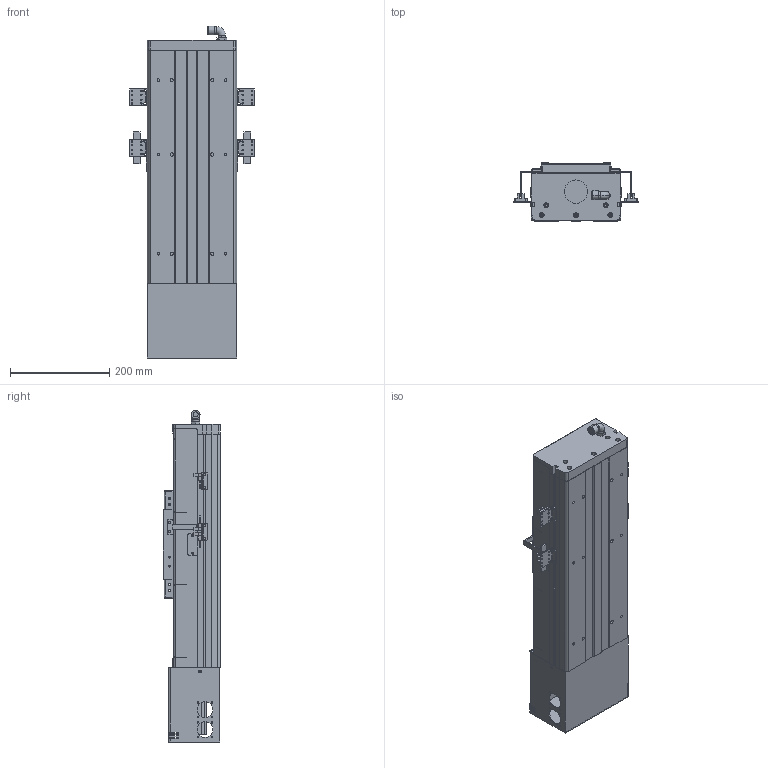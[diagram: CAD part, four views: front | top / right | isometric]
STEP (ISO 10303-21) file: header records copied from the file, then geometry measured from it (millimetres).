
FILE_DESCRIPTION (( 'STEP AP203' ), '1' );
FILE_NAME ('JDBS-180-P -S100L-1.STEP', '2012-09-11T03:40:24', ( 'USER' ), ( 'SHARE' ), 'SwSTEP 2.0', 'SolidWorks 2007', '' );
FILE_SCHEMA (( 'CONFIG_CONTROL_DESIGN' ));
Products named in the file (1): JDBS-180-P  -S100L-1
Bounding box: 250 x 116.5 x 668.9 mm (x, y, z)
Volume: 3649758.2 mm3; surface area: 1255951.5 mm2
Topology: 29 solids, 29 shells, 1588 faces, 4428 edges, 2918 vertices
Faces by surface type: cylinder 834, plane 732, cone 12, sphere 8, torus 2
Entity records: 53013 total; most frequent: CARTESIAN_POINT 9986, DIRECTION 9179, ORIENTED_EDGE 8840, EDGE_CURVE 4420, AXIS2_PLACEMENT_3D 3269, VERTEX_POINT 2918, VECTOR 2641, LINE 2641
